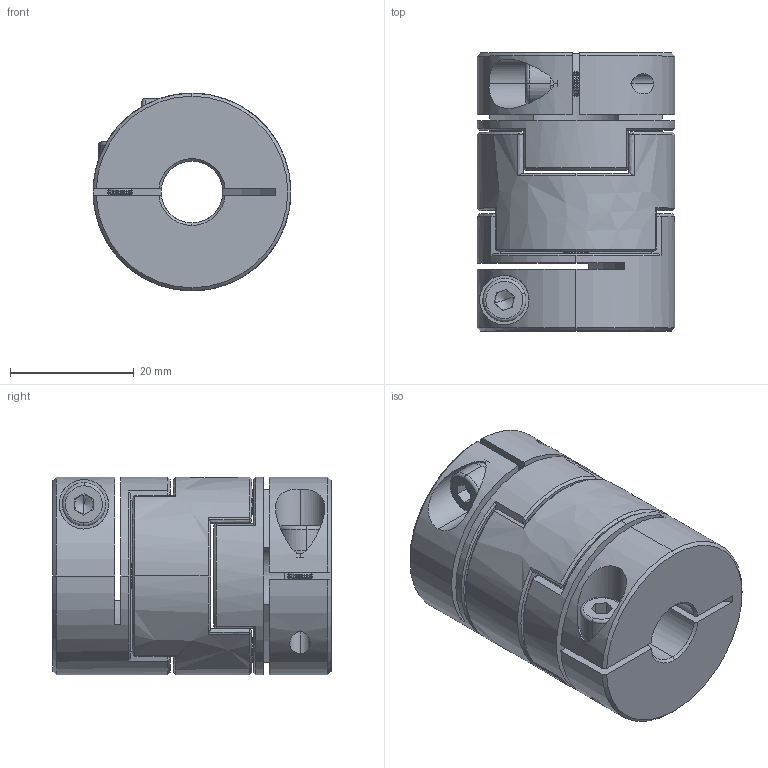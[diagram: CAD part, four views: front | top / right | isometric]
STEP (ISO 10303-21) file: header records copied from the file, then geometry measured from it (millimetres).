
FILE_DESCRIPTION (( 'STEP AP203' ), '1' );
FILE_NAME ('LZ-B-D32L45-10-16.STEP', '2021-10-29T06:45:35', ( '' ), ( '' ), 'SwSTEP 2.0', 'SolidWorks 2018', '' );
FILE_SCHEMA (( 'CONFIG_CONTROL_DESIGN' ));
Length unit declared in the file: millimetre
Products named in the file (1): LZ-B-D32L45-10-16
Bounding box: 32 x 45 x 32 mm (x, y, z)
Volume: 27156.6 mm3; surface area: 13029.8 mm2
Topology: 1 solids, 1 shells, 357 faces, 862 edges, 502 vertices
Faces by surface type: cone 118, cylinder 92, plane 85, bspline 54, torus 8
Entity records: 11209 total; most frequent: CARTESIAN_POINT 3224, ORIENTED_EDGE 1716, DIRECTION 1582, EDGE_CURVE 858, AXIS2_PLACEMENT_3D 620, VERTEX_POINT 502, EDGE_LOOP 382, FACE_OUTER_BOUND 357
